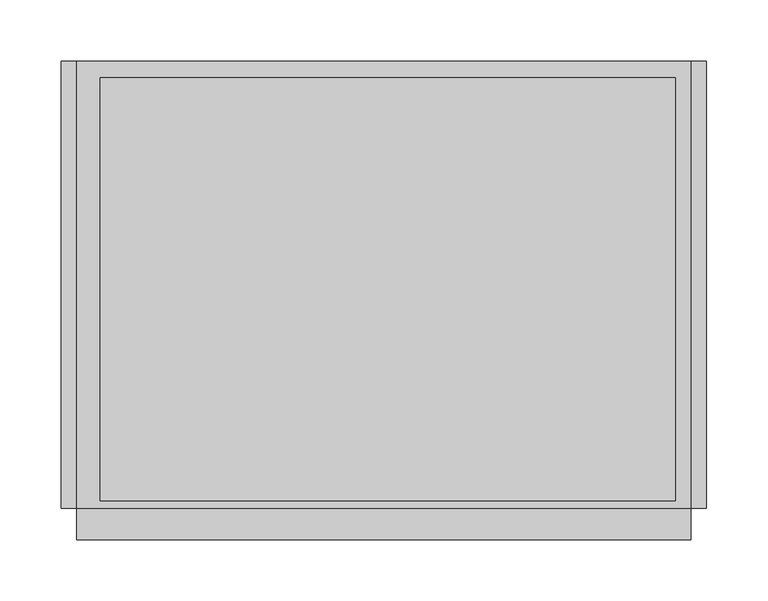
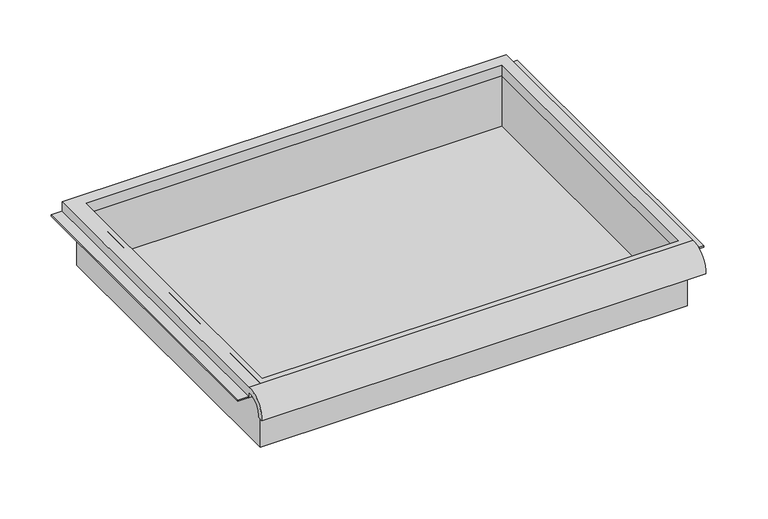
"""IFC4 building model written with IfcOpenShell, lengths in millimetres: furniture geometry."""

from ifc_helpers import new_model, si_unit, frame, origin, place, context, project, spatial, polyline, circle_curve, faceted_brep, source, transform, mapped, element, save
from ifc_brep_helpers import plane_surface, cylinder_surface, revolved_surface, advanced_brep


def furniture_fa17816b(model_context):
    return source(origin(), model_context, "Body", "SolidModel", [
        advanced_brep(
        [(263.7474999, -195.297482, 510.3849518), (263.7474999, -188.9125, 510.3849518), (263.7474999, -169.8625, 528.646425), (263.7474999, -169.8625, 522.2964246), (263.7474999, 195.2625, 522.2964246), (263.7474999, 195.2625, 534.996425), (263.7474999, -169.8625, 534.996425), (-237.9025001, -195.297482, 510.3849518), (-237.9025001, -169.8625, 534.996425), (-237.9025001, 195.2625, 534.996425), (-237.9025001, 195.2625, 522.2964246), (-237.9025001, -169.8625, 522.2964246), (-237.9025001, -169.8625, 528.646425), (-237.9025001, -188.9125, 510.3849518), (251.0474878, 181.9275, 522.2964246), (-218.8095642, 181.9275, 522.2964246), (-218.8095642, -163.5125, 522.2964246), (251.0474878, -163.5125, 522.2964246), (-218.8095642, 181.9275, 534.996425), (251.0474878, 181.9275, 534.996425), (251.0474878, -163.5125, 534.996425), (-218.8095642, -163.5125, 534.996425)],
        [
            (0, 1),
            (1, 2, circle_curve(frame((263.7474999, -172.3404634, 512.1643622), z_axis=(-1.0, 0.0, 0.0), x_axis=(0.0, 1.0, 0.0)), 16.6672942)),
            (2, 3),
            (3, 4),
            (4, 5),
            (5, 6),
            (6, 0, circle_curve(frame((263.7474999, -172.4601678, 512.2322522), z_axis=(1.0, 0.0, 0.0), x_axis=(0.0, 1.0, 0.0)), 22.9119061)),
            (7, 8, circle_curve(frame((-237.9025001, -172.4601678, 512.2322522), z_axis=(-1.0, 0.0, 0.0), x_axis=(0.0, 1.0, 0.0)), 22.9119061)),
            (8, 9),
            (9, 10),
            (10, 11),
            (11, 12),
            (12, 13, circle_curve(frame((-237.9025001, -172.3404634, 512.1643622), z_axis=(1.0, 0.0, 0.0), x_axis=(0.0, 1.0, 0.0)), 16.6672942)),
            (13, 7),
            (0, 7),
            (13, 1),
            (12, 2),
            (11, 3),
            (10, 4),
            (14, 15),
            (15, 16),
            (16, 17),
            (17, 14),
            (9, 5),
            (8, 6),
            (18, 19),
            (19, 20),
            (20, 21),
            (21, 18),
            (14, 19),
            (18, 15),
            (21, 16),
            (20, 17),
        ],
        [
            plane_surface(frame((263.7474999, -195.297482, 510.3849518), z_axis=(1.0, 0.0, 0.0), x_axis=(0.0, 1.0, 0.0))),
            plane_surface(frame((-237.9025001, -195.297482, 510.3849518), z_axis=(-1.0, 0.0, 0.0), x_axis=(0.0, -1.0, 0.0))),
            plane_surface(frame((263.7474999, -195.297482, 510.3849518), z_axis=(0.0, 0.0, -1.0), x_axis=(-1.0, 0.0, 0.0))),
            revolved_surface(polyline([(-237.9025001, -155.67316920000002, 512.1643622), (263.7474999, -155.67316920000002, 512.1643622)]), (-237.9025001, -172.3404634, 512.1643622), (-1.0, 0.0, 0.0)),
            plane_surface(frame((263.7474999, -169.8625, 528.646425), z_axis=(0.0, -1.0, 0.0), x_axis=(-1.0, 0.0, 0.0))),
            plane_surface(frame((263.7474999, -169.8625, 522.2964246), z_axis=(0.0, 0.0, -1.0), x_axis=(-1.0, 0.0, 0.0))),
            plane_surface(frame((263.7474999, 195.2625, 522.2964246), z_axis=(0.0, 1.0, 0.0), x_axis=(-1.0, 0.0, 0.0))),
            plane_surface(frame((263.7474999, 195.2625, 534.996425), z_axis=(0.0, 0.0, 1.0), x_axis=(-1.0, 0.0, 0.0))),
            cylinder_surface(frame((-237.9025001, -172.4601678, 512.2322522), z_axis=(1.0, 0.0, 0.0), x_axis=(0.0, 1.0, 0.0)), 22.9119061),
            plane_surface(frame((251.0474878, 181.9275, 534.996425), z_axis=(0.0, -1.0, 0.0), x_axis=(0.0, 0.0, -1.0))),
            plane_surface(frame((-218.8095642, 181.9275, 534.996425), z_axis=(1.0, 0.0, 0.0), x_axis=(0.0, 0.0, -1.0))),
            plane_surface(frame((-218.8095642, -163.5125, 534.996425), z_axis=(0.0, 1.0, 0.0), x_axis=(0.0, 0.0, -1.0))),
            plane_surface(frame((251.0474878, -163.5125, 534.996425), z_axis=(-1.0, 0.0, 0.0), x_axis=(0.0, 0.0, -1.0))),
        ],
        [
            (0, [[1, 2, 3, 4, 5, 6, 7]]),
            (1, [[8, 9, 10, 11, 12, 13, 14]]),
            (2, [[-1, 15, -14, 16]]),
            (3, [[-2, -16, -13, 17]]),
            (4, [[-3, -17, -12, 18]]),
            (5, [[-4, -18, -11, 19], [20, 21, 22, 23]]),
            (6, [[-5, -19, -10, 24]]),
            (7, [[-6, -24, -9, 25], [26, 27, 28, 29]]),
            (8, [[-7, -25, -8, -15]]),
            (9, [[30, -26, 31, -20]]),
            (10, [[-31, -29, 32, -21]]),
            (11, [[-32, -28, 33, -22]]),
            (12, [[-30, -23, -33, -27]]),
        ],
    ),
        faceted_brep([(-225.2025001, -169.8625, 458.796425), (257.3974878, -169.8625, 458.796425), (257.3974878, -169.8625, 534.996425), (-225.2025001, -169.8625, 534.996425), (-225.2025001, 188.9125, 458.796425), (-225.2025001, 188.9125, 534.996425), (257.3974878, 188.9125, 534.996425), (257.3974878, 188.9125, 458.796425), (-218.8095642, 181.9275, 534.996425), (251.0474878, 181.9275, 534.996425), (251.0474878, -163.5125, 534.996425), (-218.8095642, -163.5125, 534.996425), (251.0474878, 181.9275, 461.971425), (-218.8095642, 181.9275, 461.971425), (-218.8095642, -163.5125, 461.971425), (251.0474878, -163.5125, 461.971425)], [[[0, 1, 2, 3]], [[4, 5, 6, 7]], [[1, 0, 4, 7]], [[2, 1, 7, 6]], [[3, 2, 6, 5], [8, 9, 10, 11]], [[0, 3, 5, 4]], [[12, 13, 14, 15]], [[13, 12, 9, 8]], [[14, 13, 8, 11]], [[15, 14, 11, 10]], [[12, 15, 10, 9]]]),
        faceted_brep([(-250.6025001, 195.2625, 522.2964246), (-250.6025001, 195.2625, 523.8839246), (-231.5525001, 195.2625, 523.8839246), (-231.5525001, 195.2625, 522.2964246), (-250.6025001, -169.8625, 522.2964246), (-231.5525001, -169.8625, 522.2964246), (-231.5525001, -169.8625, 523.8839246), (-250.6025001, -169.8625, 523.8839246)], [[[0, 1, 2, 3]], [[4, 5, 6, 7]], [[1, 0, 4, 7]], [[2, 1, 7, 6]], [[3, 2, 6, 5]], [[0, 3, 5, 4]]]),
        faceted_brep([(276.4474999, 195.2625, 522.2964246), (263.7474999, 195.2625, 522.2964246), (263.7474999, 195.2625, 523.8839246), (276.4474999, 195.2625, 523.8839246), (276.4474999, -169.8625, 522.2964246), (276.4474999, -169.8625, 523.8839246), (263.7474999, -169.8625, 523.8839246), (263.7474999, -169.8625, 522.2964246)], [[[0, 1, 2, 3]], [[4, 5, 6, 7]], [[1, 0, 4, 7]], [[2, 1, 7, 6]], [[3, 2, 6, 5]], [[0, 3, 5, 4]]]),
    ])


if __name__ == "__main__":
    model = new_model("IFC4")
    model_context = context("Model", 3, world=origin())
    ifc_project = project(units=[si_unit("LENGTHUNIT", "METRE", prefix="MILLI")], contexts=[model_context])
    site = spatial("IfcSite", under=ifc_project)
    building = spatial("IfcBuilding", under=site)
    placement = place(None, origin())
    furniture_shape = furniture_fa17816b(model_context)
    element("IfcFurniture", 1, ObjectType="HermanMiller_Carts_CT501_Drawer : 3\"H x 15\"D x 20\"W", at=placement, inside=building, context=model_context, shape_type="MappedRepresentation", body=[
        mapped(furniture_shape, transform((0.0, 0.0, 0.0), x_axis=(1.0, 0.0, 0.0), y_axis=(0.0, 1.0, 0.0), z_axis=(0.0, 0.0, 1.0))),
    ])
    save(model, "model.ifc")
